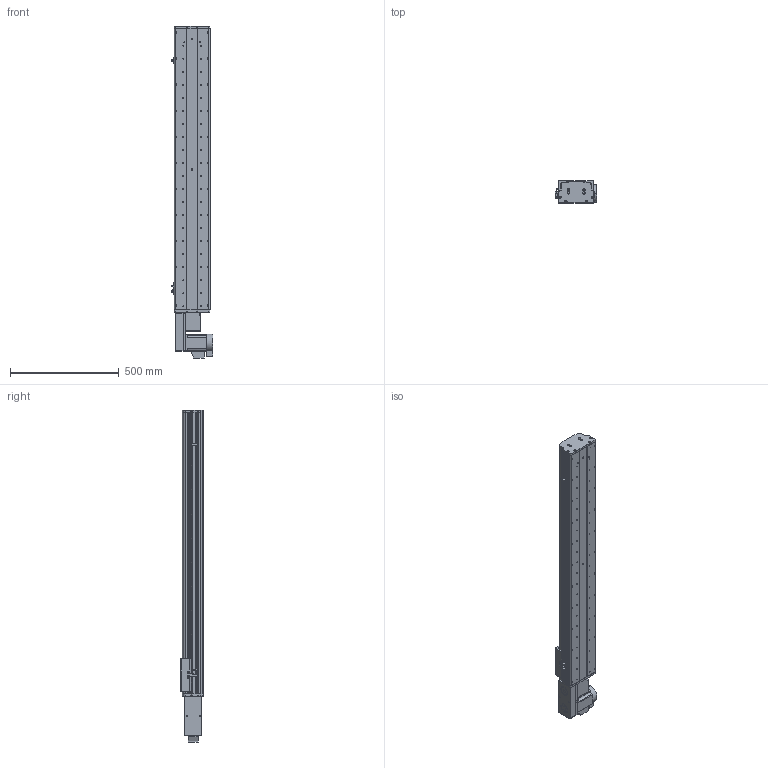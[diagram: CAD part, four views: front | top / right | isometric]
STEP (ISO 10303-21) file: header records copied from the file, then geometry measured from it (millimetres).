
FILE_DESCRIPTION (( 'STEP AP214' ), '1' );
FILE_NAME ('KSD165B-S1050-MLB-CM.STEP', '2017-10-16T06:23:15', ( '微软用户' ), ( '微软中国' ), 'SwSTEP 2.0', 'SolidWorks 2014', '' );
FILE_SCHEMA (( 'AUTOMOTIVE_DESIGN' ));
Length unit declared in the file: millimetre
Products named in the file (17): KSD165耀郪-ヶ傷啣1-肮祭湍; KSD165模组-后端板1-同步带; KSD165模组-同步带滑动座-最新版; KSD165B-S1050-MLB-CM; HTPA26S5M250-A-H8 750W萇儂蚚; HTPA26S5M250-A-H8 400W萇儂蚚 ; 130宽模组马达安装板连板左右折同步带; 130宽模组保护罩上下左右折-同步带; 165宽马达安装板同步带左-改; KSD165模组-同步带防尘盖1-1050行程; KSD165模组同步带底板-1050行程; 拸秶雄ん750W侜督萇儂; U倰嫖萇假蚾璃; U倰嫖萇EEㄜSX672; 覜茼え68遵圉猾敕; KSD165模组-同步带-防撞垫2; KSD165模组同步带-防撞垫1
Assembly tree (20 placements, depth 2):
  KSD165B-S1050-MLB-CM
    KSD165模组-同步带滑动座-最新版
    KSD165模组-后端板1-同步带
    KSD165耀郪-ヶ傷啣1-肮祭湍
    KSD165模组同步带-防撞垫1
    KSD165模组-同步带-防撞垫2
    覜茼え68遵圉猾敕
    U倰嫖萇EEㄜSX672  x3
    U倰嫖萇假蚾璃  x3
    拸秶雄ん750W侜督萇儂
    KSD165模组同步带底板-1050行程
    KSD165模组-同步带防尘盖1-1050行程
    165宽马达安装板同步带左-改
    130宽模组保护罩上下左右折-同步带
    130宽模组马达安装板连板左右折同步带
    HTPA26S5M250-A-H8 400W萇儂蚚 
    HTPA26S5M250-A-H8 750W萇儂蚚
Bounding box: 191.2 x 104 x 1528 mm (x, y, z)
Volume: 8143908.5 mm3; surface area: 1894127.3 mm2
Topology: 21 solids, 22 shells, 1983 faces, 5598 edges, 3656 vertices
Faces by surface type: cylinder 1281, plane 590, cone 112
Entity records: 64576 total; most frequent: CARTESIAN_POINT 13218, DIRECTION 10598, ORIENTED_EDGE 9856, EDGE_CURVE 4928, AXIS2_PLACEMENT_3D 4162, VERTEX_POINT 3248, CIRCLE 2376, VECTOR 2274
